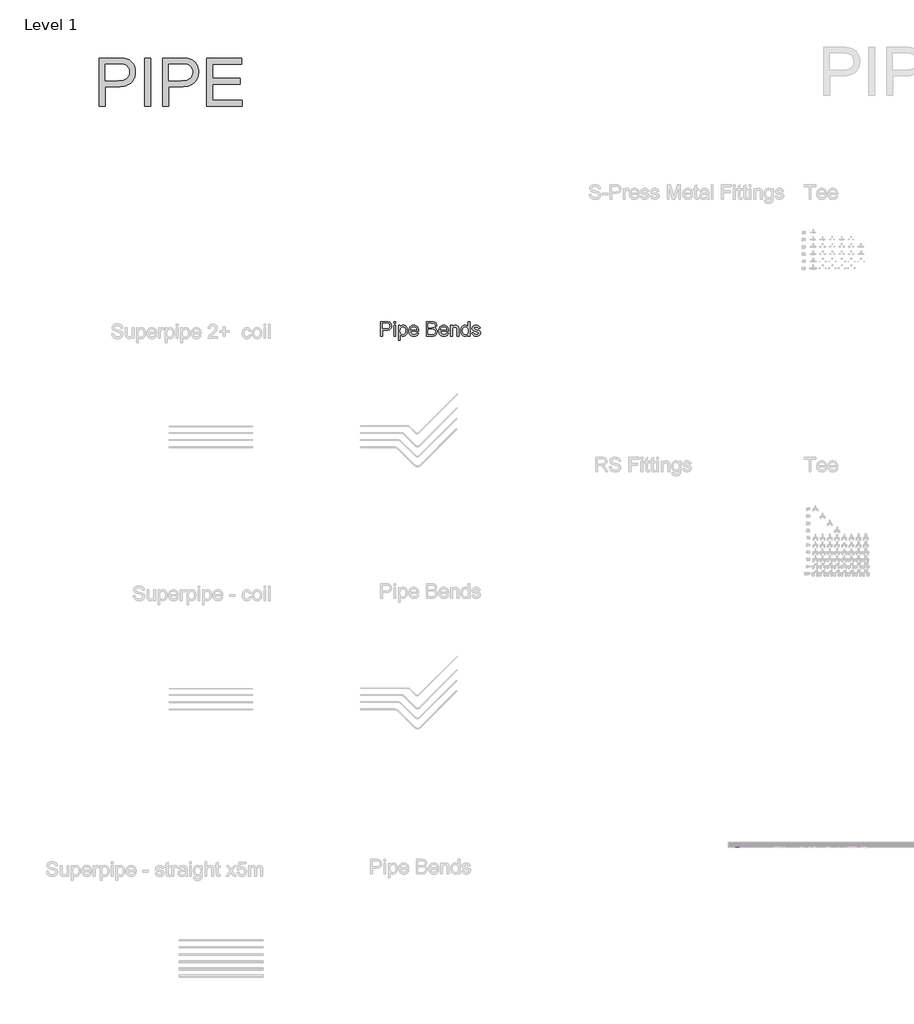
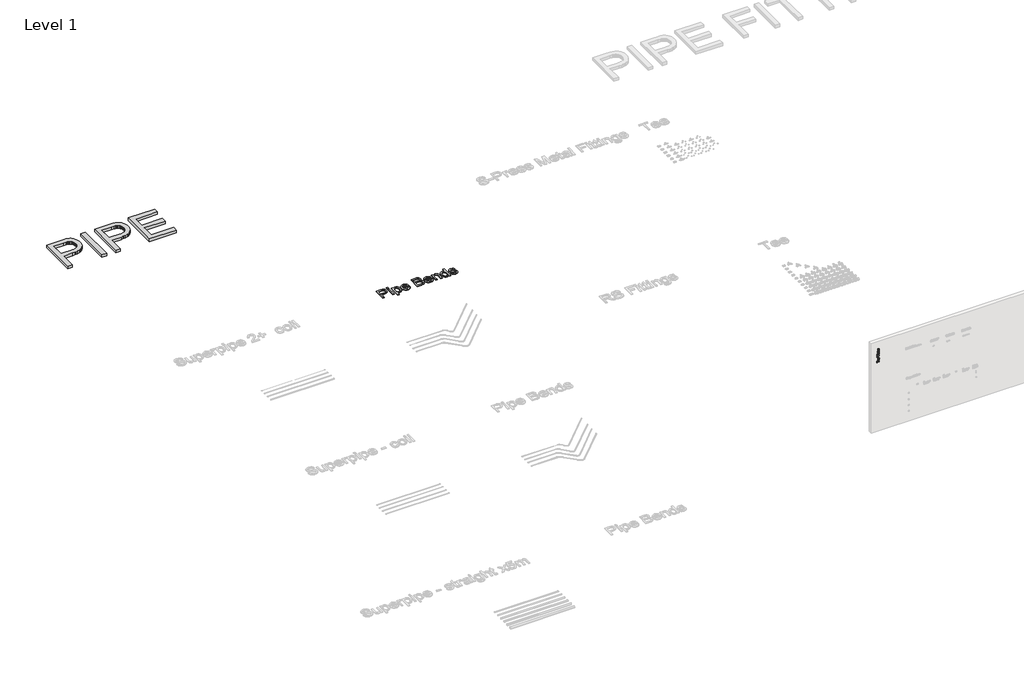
# One storey, part 11 of 57: 3 proxies.
"""IFC4 building model written with IfcOpenShell, lengths in millimetres."""

import ifcopenshell
import ifcopenshell.guid

model = None  # the IFC model being written
_history = None  # IfcOwnerHistory: only IFC2X3 demands one
_inside = {}  # id of a spatial element -> (the spatial element, [elements in it])
_under = {}  # id of a project, library or spatial element -> (it, [spatial elements below it])
_declared = {}  # id of a project -> (the project, [libraries it declares])
_typed = {}  # id of a type object -> (the type object, [elements of that type])
_made_of = {}  # id of a material, layer set ... -> (it, [elements and type objects made of it])


def new_model(schema):
    """Start an empty IFC model of exactly this schema.

    Asked for "IFC4X3", IfcOpenShell would pick the latest addendum, in which some entities
    have other attributes; the version numbers below select the first issue.
    IFC2X3 requires an IfcOwnerHistory on every rooted entity: one is made here for all.
    """
    global model, _history
    if schema == "IFC4X3":
        model = ifcopenshell.file(schema_version=(4, 3, 0, 0))
    else:
        model = ifcopenshell.file(schema=schema)
    _inside.clear()
    _under.clear()
    _declared.clear()
    _typed.clear()
    _made_of.clear()
    _history = None
    if model.schema == "IFC2X3":
        org = make("IfcOrganization", Name="unknown")
        user = make(
            "IfcPersonAndOrganization",
            ThePerson=make("IfcPerson", FamilyName="unknown"),
            TheOrganization=org,
        )
        app = make(
            "IfcApplication",
            ApplicationDeveloper=org,
            Version="unknown",
            ApplicationFullName="unknown",
            ApplicationIdentifier="unknown",
        )
        _history = make(
            "IfcOwnerHistory",
            OwningUser=user,
            OwningApplication=app,
            ChangeAction="ADDED",
            CreationDate=0,
        )
    return model


def make(cls, **values):
    """One entity of the class cls with the attributes given. An attribute that is None is left unset."""
    return model.create_entity(
        cls, **{name: value for name, value in values.items() if value is not None}
    )


def rooted(cls, **values):
    """An entity with a GlobalId (a new one), such as an element, a storey or a relation."""
    return make(cls, GlobalId=ifcopenshell.guid.new(), OwnerHistory=_history, **values)


def si_unit(unit_type, name, prefix=None):
    """IfcSIUnit, for example si_unit("LENGTHUNIT", "METRE", prefix="MILLI")."""
    return make("IfcSIUnit", UnitType=unit_type, Prefix=prefix, Name=name)


def assignment(units):
    """IfcUnitAssignment: the units of a project."""
    return None if units is None else make("IfcUnitAssignment", Units=units)


def point(xyz):
    """IfcCartesianPoint."""
    return None if xyz is None else make("IfcCartesianPoint", Coordinates=xyz)


def direction(xyz):
    """IfcDirection."""
    return None if xyz is None else make("IfcDirection", DirectionRatios=xyz)


def frame(location, z_axis=None, x_axis=None):
    """IfcAxis2Placement3D, a coordinate frame: its origin and axes. An axis left out is left unset."""
    return make(
        "IfcAxis2Placement3D",
        Location=point(location),
        Axis=direction(z_axis),
        RefDirection=direction(x_axis),
    )


def origin():
    """The frame at (0, 0, 0) with its axes left unset."""
    return frame((0.0, 0.0, 0.0))


def place(relative_to, where):
    """IfcLocalPlacement: puts the frame where relative to a parent placement (None: the world)."""
    return make(
        "IfcLocalPlacement", PlacementRelTo=relative_to, RelativePlacement=where
    )


def context(
    kind, dimensions, precision=None, world=None, true_north=None, identifier=None
):
    """IfcGeometricRepresentationContext, for example the 3D "Model" context."""
    return make(
        "IfcGeometricRepresentationContext",
        ContextIdentifier=identifier,
        ContextType=kind,
        CoordinateSpaceDimension=dimensions,
        Precision=precision,
        WorldCoordinateSystem=world,
        TrueNorth=true_north,
    )


def project(units=None, contexts=None):
    """IfcProject with its units and contexts."""
    return rooted(
        "IfcProject",
        Name="project",
        RepresentationContexts=contexts,
        UnitsInContext=assignment(units),
    )


def spatial(cls, under=None, at=None, **own):
    """A site, building, storey or space (cls), placed at a placement, below another one or the project."""
    s = rooted(cls, ObjectPlacement=at, **own)
    if under is not None:
        _under.setdefault(under.id(), (under, []))[1].append(s)
    return s


def polyline(points):
    """IfcPolyline through the points."""
    return make("IfcPolyline", Points=[point(p) for p in points])


def outline(outer, holes=None, kind="AREA"):
    """IfcArbitraryClosedProfileDef: a profile drawn as a closed curve; with holes, ...WithVoids."""
    if holes is None:
        return make("IfcArbitraryClosedProfileDef", ProfileType=kind, OuterCurve=outer)
    return make(
        "IfcArbitraryProfileDefWithVoids",
        ProfileType=kind,
        OuterCurve=outer,
        InnerCurves=holes,
    )


def extrude(swept, where, along, depth):
    """IfcExtrudedAreaSolid: the profile swept, set in the frame where, extruded along a direction by depth."""
    return make(
        "IfcExtrudedAreaSolid",
        SweptArea=swept,
        Position=where,
        ExtrudedDirection=direction(along),
        Depth=depth,
    )


def shape(context_of_items, identifier, shape_type, items):
    """IfcShapeRepresentation: the items that make up one representation, for example the "Body"."""
    return make(
        "IfcShapeRepresentation",
        ContextOfItems=context_of_items,
        RepresentationIdentifier=identifier,
        RepresentationType=shape_type,
        Items=items,
    )


def made_of(thing, what):
    """Note that an element or type object is made of a material, layer set ...; save() writes the relation."""
    if what is not None:
        _made_of.setdefault(what.id(), (what, []))[1].append(thing)
    return thing


def element(
    cls,
    number,
    at=None,
    inside=None,
    cuts=None,
    type_object=None,
    material=None,
    context=None,
    identifier="Body",
    shape_type=None,
    held_by="IfcProductDefinitionShape",
    body=None,
    shapes=None,
    **own,
):
    """One element of the class cls, such as IfcWall. Its Tag is "e" and its number.

    at: its placement. inside: the storey or other place that contains it. cuts: it is an
    opening in that element (IfcRelVoidsElement). A single representation is given by context,
    identifier, shape_type and body (its items); several are given by shapes. held_by: the class
    of the entity that holds the representations. save() writes the other relations.
    """
    e = rooted(cls, Tag="e%d" % number, ObjectPlacement=at, **own)
    if body is not None:
        shapes = [shape(context, identifier, shape_type, body)]
    if shapes is not None:
        e.Representation = make(held_by, Representations=shapes)
    if inside is not None:
        _inside.setdefault(inside.id(), (inside, []))[1].append(e)
    if cuts is not None:
        rooted(
            "IfcRelVoidsElement", RelatingBuildingElement=cuts, RelatedOpeningElement=e
        )
    if type_object is not None:
        _typed.setdefault(type_object.id(), (type_object, []))[1].append(e)
    return made_of(e, material)


def aggregate(whole, parts):
    """IfcRelAggregates: a whole, such as a stair, and the parts it consists of."""
    return rooted("IfcRelAggregates", RelatingObject=whole, RelatedObjects=parts)


def save(model, path):
    """Write the relations noted so far, then the file.

    IfcRelAggregates (storeys below a building ...), IfcRelContainedInSpatialStructure (elements
    in a storey), IfcRelDefinesByType, IfcRelAssociatesMaterial and IfcRelDeclares: one each for
    every whole, place, type object, material and project.
    """
    for whole, parts in _under.values():
        aggregate(whole, parts)
    for where, things in _inside.values():
        rooted(
            "IfcRelContainedInSpatialStructure",
            RelatedElements=things,
            RelatingStructure=where,
        )
    for kind, things in _typed.values():
        rooted("IfcRelDefinesByType", RelatedObjects=things, RelatingType=kind)
    for what, things in _made_of.values():
        rooted("IfcRelAssociatesMaterial", RelatedObjects=things, RelatingMaterial=what)
    for by, libraries in _declared.values():
        rooted("IfcRelDeclares", RelatingContext=by, RelatedDefinitions=libraries)
    model.write(path)


model = new_model("IFC4")

# Units and contexts
model_context = context("Model", 3, world=origin())
ifc_project = project(units=[si_unit("LENGTHUNIT", "METRE", prefix="MILLI")], contexts=[model_context])

# Site, building, storey
site = spatial("IfcSite", under=ifc_project)
building = spatial("IfcBuilding", under=site)
storey = spatial("IfcBuildingStorey", under=building, Name="Level 1", Elevation=27.3876384)

# Proxies
placement = place(None, origin())
element("IfcBuildingElementProxy", 1, Name="125mm Arial - color", ObjectType="125mm Arial - color", at=placement, inside=storey, context=model_context, shape_type="SweptSolid", body=[
    extrude(outline(polyline([(4047.2802199, 10050.1646823), (4062.9765184, 10050.1646823), (4062.9765184, 9940.290593), (4104.1793018, 9940.290593), (4104.1793018, 9924.5942946), (4006.0774365, 9924.5942946), (4006.0774365, 9940.290593), (4047.2802199, 9940.290593), (4047.2802199, 10050.1646823)])), frame((0.0, 4542.8703674, 0.0), z_axis=(0.0, 1.0, 0.0), x_axis=(0.0, 0.0, 1.0)), (0.0, 0.0, 1.0), 2.0),
    extrude(outline(polyline([(4178.7367195, 10038.3924584), (4182.6607941, 10050.1646823), (4198.3570926, 10050.1646823), (4195.2300956, 10036.9669157), (4194.433018, 10009.6976628), (4194.433018, 9990.1692602), (4193.6665972, 9976.4349991), (4188.8534744, 9965.7817496), (4178.1082544, 9958.7766633), (4159.0856896, 9955.9868915), (4138.376999, 9959.1445453), (4124.7040515, 9968.1269973), (4117.913563, 9983.4554138), (4133.6098614, 9985.4174511), (4141.1820992, 9974.702888), (4157.0623386, 9971.6831899), (4174.4141061, 9976.2204012), (4178.7367195, 9987.8086841), (4178.644749, 9991.303563), (4151.4214814, 9996.6991656), (4137.8405044, 9999.0597418), (4126.8500298, 10004.2100897), (4118.9558953, 10013.2231986), (4115.9515257, 10025.6392159), (4117.9403877, 10036.1928306), (4123.9069738, 10044.6771092), (4133.5830367, 10050.264317), (4146.7003291, 10052.1267196), (4163.515602, 10049.0303794), (4178.7367195, 10038.3924584)]), holes=[polyline([(4178.7367195, 10006.9998615), (4178.644749, 10011.4451023), (4176.1615456, 10023.5852081), (4165.9221634, 10032.6749591), (4150.0419239, 10036.4304211), (4136.3229912, 10033.0275126), (4131.6478241, 10024.5355699), (4133.7938024, 10018.4961738), (4139.9098406, 10014.3575014), (4153.4141755, 10011.8129843), (4178.7367195, 10006.9998615)])]), frame((0.0, 4542.8703674, 0.0), z_axis=(0.0, 1.0, 0.0), x_axis=(0.0, 0.0, 1.0)), (0.0, 0.0, 1.0), 2.0),
    extrude(outline(polyline([(4216.0154284, 10085.4813538), (4231.7117268, 10085.4813538), (4231.7117268, 10037.9019491), (4241.6598691, 10048.095346), (4255.3174882, 10052.1267196), (4275.1677875, 10046.1026519), (4283.4757892, 10038.7603404), (4289.5458422, 10028.7815413), (4294.4969207, 10003.3516984), (4290.1129936, 9979.1634572), (4284.6714057, 9969.3685991), (4277.1144964, 9962.0569444), (4267.8331402, 9957.5044047), (4257.2182118, 9955.9868915), (4242.5642457, 9960.3248333), (4231.7117268, 9973.3386589), (4231.7117268, 9957.9489288), (4216.0154284, 9957.9489288), (4216.0154284, 10085.4813538)]), holes=[polyline([(4231.7117268, 10004.7925695), (4233.5243121, 9990.5563027), (4238.9620678, 9980.1598043), (4246.7527355, 9973.8023435), (4255.6240565, 9971.6831899), (4264.4608886, 9973.6758841), (4271.9641485, 9979.6539665), (4277.0915038, 9989.6327656), (4278.8006222, 10003.6276099), (4277.0493506, 10018.2279265), (4271.7955359, 10028.4289877), (4264.0891745, 10034.4300627), (4254.980263, 10036.4304211), (4246.0169715, 10034.4990406), (4238.5022153, 10028.7048992), (4233.4093489, 10018.8640558), (4231.7117268, 10004.7925695)])]), frame((0.0, 4542.8703674, 0.0), z_axis=(0.0, 1.0, 0.0), x_axis=(0.0, 0.0, 1.0)), (0.0, 0.0, 1.0), 2.0),
    extrude(outline(polyline([(4385.639685, 10050.1646823), (4404.5856077, 10050.1646823), (4432.0234732, 9956.0482052), (4436.7446255, 9939.7694269), (4440.9446116, 9953.2890902), (4471.0496215, 10050.1646823), (4487.8189091, 10050.1646823), (4522.0932484, 9924.5942946), (4505.9064406, 9924.5942946), (4485.8568718, 10007.8582528), (4479.9094462, 10032.598317), (4466.4510966, 9986.5517539), (4448.3635652, 9924.5942946), (4425.0337153, 9924.5942946), (4400.140367, 10010.0655448), (4393.5798047, 10032.598317), (4387.4484381, 10007.1224888), (4367.5828104, 9924.5942946), (4351.3960026, 9924.5942946), (4385.639685, 10050.1646823)])), frame((0.0, 4542.8703674, 0.0), z_axis=(0.0, 1.0, 0.0), x_axis=(0.0, 0.0, 1.0)), (0.0, 0.0, 1.0), 2.0),
    extrude(outline(polyline([(4594.6886287, 10038.3924584), (4598.6127033, 10050.1646823), (4614.3090018, 10050.1646823), (4611.1820049, 10036.9669157), (4610.3849272, 10009.6976628), (4610.3849272, 9990.1692602), (4609.6185064, 9976.4349991), (4604.8053836, 9965.7817496), (4594.0601637, 9958.7766633), (4575.0375988, 9955.9868915), (4554.3289082, 9959.1445453), (4540.6559607, 9968.1269973), (4533.8654722, 9983.4554138), (4549.5617707, 9985.4174511), (4557.1340084, 9974.702888), (4573.0142479, 9971.6831899), (4590.3660153, 9976.2204012), (4594.6886287, 9987.8086841), (4594.5966582, 9991.303563), (4567.3733906, 9996.6991656), (4553.7924136, 9999.0597418), (4542.801939, 10004.2100897), (4534.9078045, 10013.2231986), (4531.9034349, 10025.6392159), (4533.8922969, 10036.1928306), (4539.858883, 10044.6771092), (4549.5349459, 10050.264317), (4562.6522383, 10052.1267196), (4579.4675112, 10049.0303794), (4594.6886287, 10038.3924584)]), holes=[polyline([(4594.6886287, 10006.9998615), (4594.5966582, 10011.4451023), (4592.1134548, 10023.5852081), (4581.8740726, 10032.6749591), (4565.9938331, 10036.4304211), (4552.2749004, 10033.0275126), (4547.5997334, 10024.5355699), (4549.7457117, 10018.4961738), (4555.8617498, 10014.3575014), (4569.3660847, 10011.8129843), (4594.6886287, 10006.9998615)])]), frame((0.0, 4542.8703674, 0.0), z_axis=(0.0, 1.0, 0.0), x_axis=(0.0, 0.0, 1.0)), (0.0, 0.0, 1.0), 2.0),
    extrude(outline(polyline([(4665.3219718, 10037.0742146), (4658.4854981, 10036.4304211), (4653.1358807, 10035.3727604), (4650.4534078, 10032.5063465), (4649.6256733, 10024.4129426), (4649.6256733, 9973.6452273), (4665.3219718, 9973.6452273), (4665.3219718, 9957.9489288), (4649.6256733, 9957.9489288), (4649.6256733, 9926.3110772), (4633.9293749, 9935.5387839), (4633.9293749, 9957.9489288), (4622.157151, 9957.9489288), (4622.157151, 9973.6452273), (4633.9293749, 9973.6452273), (4633.9293749, 10024.8727951), (4635.8300985, 10042.684415), (4642.3906608, 10049.5208888), (4655.5424421, 10052.1267196), (4667.2840091, 10050.6245347), (4665.3219718, 10037.0742146)])), frame((0.0, 4542.8703674, 0.0), z_axis=(0.0, 1.0, 0.0), x_axis=(0.0, 0.0, 1.0)), (0.0, 0.0, 1.0), 2.0),
    extrude(outline(polyline([(4745.5815604, 10022.6961599), (4735.4648056, 10033.15014), (4720.0750754, 10036.4304211), (4708.9658056, 10034.659989), (4699.8568941, 10029.3486927), (4693.5454186, 10020.71113), (4690.8284568, 10008.9618988), (4761.3698294, 10008.9618988), (4761.4617999, 10004.7312558), (4758.484255, 9984.1528567), (4749.5516203, 9968.7707908), (4735.9284902, 9959.1828663), (4718.8794589, 9955.9868915), (4701.2824368, 9959.1905305), (4687.302921, 9968.8014477), (4678.174849, 9984.2141704), (4675.1321583, 10004.8232263), (4678.1441922, 10024.7616641), (4687.1802937, 10039.6953738), (4701.3514147, 10049.0188831), (4719.7685071, 10052.1267196), (4734.6255748, 10050.3256306), (4746.5779075, 10044.9223638), (4755.4262359, 10036.2541443), (4760.9712906, 10024.6581973), (4745.5815604, 10022.6961599)]), holes=[polyline([(4690.8284568, 9993.2656003), (4693.4074629, 9984.4172719), (4699.4890121, 9977.5539735), (4708.2377058, 9973.1508858), (4718.8181453, 9971.6831899), (4730.329786, 9973.5225999), (4739.4808507, 9979.0408299), (4745.7655014, 9993.2656003), (4690.8284568, 9993.2656003)])]), frame((0.0, 4542.8703674, 0.0), z_axis=(0.0, 1.0, 0.0), x_axis=(0.0, 0.0, 1.0)), (0.0, 0.0, 1.0), 2.0),
    extrude(outline(polyline([(4777.1580983, 10050.1646823), (4792.8543968, 10050.1646823), (4792.8543968, 10001.6962294), (4795.3989139, 9983.3634433), (4801.0550996, 9974.7795301), (4809.9302527, 9971.6831899), (4820.9667126, 9974.9021574), (4826.209031, 9960.8306711), (4810.4514189, 9955.9868915), (4800.6412324, 9959.0219179), (4790.8923595, 9971.5912194), (4790.8923595, 9957.9489288), (4777.1580983, 9957.9489288), (4777.1580983, 10050.1646823)])), frame((0.0, 4542.8703674, 0.0), z_axis=(0.0, 1.0, 0.0), x_axis=(0.0, 0.0, 1.0)), (0.0, 0.0, 1.0), 2.0),
])
element("IfcBuildingElementProxy", 2, Name="2000mm Arial", ObjectType="2000mm Arial", at=placement, inside=storey, context=model_context, shape_type="SweptSolid", body=[
    extrude(outline(polyline([(-16641.0429592, 35469.9645054), (-16641.0429592, 37479.0907084), (-15896.449801, 37479.0907084), (-15723.0547539, 37474.3082425), (-15653.8316252, 37468.3301601), (-15596.2580929, 37459.9608447), (-15526.3758423, 37444.8930113), (-15462.4103604, 37424.2149775), (-15404.3616472, 37397.9267433), (-15352.2297028, 37366.0283086), (-15305.4627042, 37327.8605516), (-15263.5088283, 37282.7643503), (-15226.3680752, 37230.7397049), (-15194.0404449, 37171.7866151), (-15167.8595096, 37107.8517901), (-15149.1588415, 37040.8819385), (-15137.9384406, 36970.8770605), (-15134.198307, 36897.8371561), (-15136.7236636, 36834.9369991), (-15144.2997334, 36774.5047172), (-15156.9265165, 36716.5403103), (-15174.6040128, 36661.0437785), (-15197.3322223, 36608.0151217), (-15225.1111451, 36557.45434), (-15257.940781, 36509.3614334), (-15295.8211302, 36463.7364017), (-15340.2926985, 36422.119751), (-15392.8959917, 36386.0519871), (-15453.6310098, 36355.5331099), (-15522.4977529, 36330.5631195), (-15599.4962209, 36311.1420158), (-15684.6264139, 36297.2697989), (-15777.8883317, 36288.9464688), (-15879.2819746, 36286.1720254), (-16389.9021839, 36286.1720254), (-16389.9021839, 35469.9645054), (-16641.0429592, 35469.9645054)]), holes=[polyline([(-16389.9021839, 36537.3128008), (-15864.5666948, 36537.3128008), (-15743.778773, 36543.0762854), (-15690.4665405, 36550.2806411), (-15641.8754603, 36560.3667391), (-15598.0055324, 36573.3345795), (-15558.8567568, 36589.1841621), (-15524.4291334, 36607.915487), (-15494.7226623, 36629.5285542), (-15469.0858857, 36653.7551165), (-15446.8673461, 36680.3269264), (-15428.0670433, 36709.2439841), (-15412.6849773, 36740.5062895), (-15400.7211483, 36774.1138426), (-15392.1755561, 36810.0666434), (-15387.0482008, 36848.3646919), (-15385.3390824, 36889.0079882), (-15389.3704559, 36947.6238527), (-15401.4645765, 37001.8251334), (-15421.6214441, 37051.61183), (-15449.8410589, 37096.9839428), (-15484.6212358, 37136.4699436), (-15524.4597902, 37168.5983045), (-15569.356722, 37193.3690255), (-15619.3120313, 37210.7821066), (-15660.5761284, 37218.2930307), (-15716.1876234, 37223.6579765), (-15870.4528067, 37227.9499331), (-16389.9021839, 37227.9499331), (-16389.9021839, 36537.3128008)])]), frame((0.0, 0.0, 27.3876384), z_axis=(0.0, 0.0, 1.0), x_axis=(1.0, 0.0, 0.0)), (0.0, 0.0, 1.0), 150.0),
    extrude(outline(polyline([(-14757.4871439, 35469.9645054), (-14757.4871439, 37479.0907084), (-14506.3463686, 37479.0907084), (-14506.3463686, 35469.9645054), (-14757.4871439, 35469.9645054)])), frame((0.0, 0.0, 27.3876384), z_axis=(0.0, 0.0, 1.0), x_axis=(1.0, 0.0, 0.0)), (0.0, 0.0, 1.0), 150.0),
    extrude(outline(polyline([(-14004.0648178, 35469.9645054), (-14004.0648178, 37479.0907084), (-13259.4716596, 37479.0907084), (-13086.0766125, 37474.3082425), (-13016.8534838, 37468.3301601), (-12959.2799515, 37459.9608447), (-12889.3977008, 37444.8930113), (-12825.4322189, 37424.2149775), (-12767.3835058, 37397.9267433), (-12715.2515614, 37366.0283086), (-12668.4845627, 37327.8605516), (-12626.5306869, 37282.7643503), (-12589.3899338, 37230.7397049), (-12557.0623034, 37171.7866151), (-12530.8813681, 37107.8517901), (-12512.1807, 37040.8819385), (-12500.9602992, 36970.8770605), (-12497.2201656, 36897.8371561), (-12499.7455222, 36834.9369991), (-12507.321592, 36774.5047172), (-12519.9483751, 36716.5403103), (-12537.6258714, 36661.0437785), (-12560.3540809, 36608.0151217), (-12588.1330036, 36557.45434), (-12620.9626396, 36509.3614334), (-12658.8429888, 36463.7364017), (-12703.3145571, 36422.119751), (-12755.9178503, 36386.0519871), (-12816.6528684, 36355.5331099), (-12885.5196115, 36330.5631195), (-12962.5180795, 36311.1420158), (-13047.6482724, 36297.2697989), (-13140.9101903, 36288.9464688), (-13242.3038331, 36286.1720254), (-13752.9240424, 36286.1720254), (-13752.9240424, 35469.9645054), (-14004.0648178, 35469.9645054)]), holes=[polyline([(-13752.9240424, 36537.3128008), (-13227.5885533, 36537.3128008), (-13106.8006316, 36543.0762854), (-13053.4883991, 36550.2806411), (-13004.8973189, 36560.3667391), (-12961.027391, 36573.3345795), (-12921.8786153, 36589.1841621), (-12887.4509919, 36607.915487), (-12857.7445208, 36629.5285542), (-12832.1077443, 36653.7551165), (-12809.8892046, 36680.3269264), (-12791.0889018, 36709.2439841), (-12775.7068359, 36740.5062895), (-12763.7430069, 36774.1138426), (-12755.1974147, 36810.0666434), (-12750.0700594, 36848.3646919), (-12748.3609409, 36889.0079882), (-12752.3923145, 36947.6238527), (-12764.4864351, 37001.8251334), (-12784.6433027, 37051.61183), (-12812.8629174, 37096.9839428), (-12847.6430944, 37136.4699436), (-12887.4816488, 37168.5983045), (-12932.3785806, 37193.3690255), (-12982.3338899, 37210.7821066), (-13023.597987, 37218.2930307), (-13079.2094819, 37223.6579765), (-13233.4746652, 37227.9499331), (-13752.9240424, 37227.9499331), (-13752.9240424, 36537.3128008)])]), frame((0.0, 0.0, 27.3876384), z_axis=(0.0, 0.0, 1.0), x_axis=(1.0, 0.0, 0.0)), (0.0, 0.0, 1.0), 150.0),
    extrude(outline(polyline([(-12151.9015994, 35469.9645054), (-12151.9015994, 37479.0907084), (-10707.842141, 37479.0907084), (-10707.842141, 37227.9499331), (-11900.7608241, 37227.9499331), (-11900.7608241, 36631.4905915), (-10770.6273349, 36631.4905915), (-10770.6273349, 36380.3498162), (-11900.7608241, 36380.3498162), (-11900.7608241, 35721.1052808), (-10676.4495441, 35721.1052808), (-10676.4495441, 35469.9645054), (-12151.9015994, 35469.9645054)])), frame((0.0, 0.0, 27.3876384), z_axis=(0.0, 0.0, 1.0), x_axis=(1.0, 0.0, 0.0)), (0.0, 0.0, 1.0), 150.0),
])
element("IfcBuildingElementProxy", 3, Name="600mm Arial", ObjectType="600mm Arial", at=placement, inside=storey, context=model_context, shape_type="SweptSolid", body=[
    extrude(outline(polyline([(-4888.7384012, 25873.588582), (-4888.7384012, 26476.3264429), (-4665.3604538, 26476.3264429), (-4613.3419397, 26474.8917032), (-4575.3029414, 26470.5874838), (-4535.1486216, 26459.8637237), (-4502.0944243, 26442.407723), (-4475.478162, 26417.4285355), (-4454.6376469, 26384.135215), (-4441.1731659, 26344.863812), (-4436.6850056, 26301.9503772), (-4439.7154335, 26264.9506456), (-4448.8067173, 26230.912364), (-4463.958857, 26199.8355324), (-4485.1718525, 26171.7201509), (-4514.294311, 26148.4148265), (-4553.1748393, 26131.7681663), (-4601.8134376, 26121.7801701), (-4660.2101058, 26118.450838), (-4813.3961686, 26118.450838), (-4813.3961686, 25873.588582), (-4888.7384012, 25873.588582)]), holes=[polyline([(-4813.3961686, 26193.7930706), (-4655.7955219, 26193.7930706), (-4619.5591454, 26195.522116), (-4588.9881516, 26200.7092522), (-4564.0825405, 26209.354479), (-4544.8423122, 26221.4577967), (-4530.4857173, 26236.6973083), (-4520.2310067, 26254.7511172), (-4514.0781803, 26275.6192234), (-4512.0272382, 26299.3016269), (-4516.8648864, 26333.1467704), (-4531.3778311, 26361.6944132), (-4553.7634505, 26383.1787218), (-4582.2191229, 26395.8338624), (-4611.2818005, 26399.6966233), (-4657.5613555, 26400.9842103), (-4813.3961686, 26400.9842103), (-4813.3961686, 26193.7930706)])]), frame((0.0, 0.0, 27.3876384), z_axis=(0.0, 0.0, 1.0), x_axis=(1.0, 0.0, 0.0)), (0.0, 0.0, 1.0), 30.0),
    extrude(outline(polyline([(-4342.5072148, 25873.588582), (-4342.5072148, 26316.2241986), (-4267.1649822, 26316.2241986), (-4267.1649822, 25873.588582), (-4342.5072148, 25873.588582)])), frame((0.0, 0.0, 27.3876384), z_axis=(0.0, 0.0, 1.0), x_axis=(1.0, 0.0, 0.0)), (0.0, 0.0, 1.0), 30.0),
    extrude(outline(polyline([(-4342.5072148, 26400.9842103), (-4342.5072148, 26476.3264429), (-4267.1649822, 26476.3264429), (-4267.1649822, 26400.9842103), (-4342.5072148, 26400.9842103)])), frame((0.0, 0.0, 27.3876384), z_axis=(0.0, 0.0, 1.0), x_axis=(1.0, 0.0, 0.0)), (0.0, 0.0, 1.0), 30.0),
    extrude(outline(polyline([(-4154.1516333, 25704.0685587), (-4154.1516333, 26316.2241986), (-4078.8094007, 26316.2241986), (-4078.8094007, 26242.353494), (-4054.2348834, 26278.7922056), (-4026.7173101, 26304.8198568), (-3994.6380002, 26320.4364475), (-3956.3782727, 26325.6419777), (-3930.1023012, 26323.8209618), (-3905.4266163, 26318.3579142), (-3882.3512182, 26309.2528348), (-3860.8761067, 26296.5057237), (-3841.4703315, 26280.4476746), (-3824.602942, 26261.4097814), (-3810.2739383, 26239.3920439), (-3798.4833203, 26214.3944624), (-3782.7011827, 26158.8810693), (-3777.4404702, 26098.2909047), (-3783.3817644, 26033.8563732), (-3790.8083822, 26004.1912889), (-3801.2056471, 25976.2276587), (-3814.4310048, 25950.6966482), (-3830.3419011, 25928.3294229), (-3848.938336, 25909.1259828), (-3870.2203094, 25893.0863278), (-3893.1439562, 25880.4357857), (-3916.6654113, 25871.3996842), (-3940.7846746, 25865.9780233), (-3965.5017461, 25864.170803), (-4000.137836, 25869.0084512), (-4031.0583177, 25883.5213959), (-4057.5274272, 25905.4287687), (-4078.8094007, 25932.4497013), (-4078.8094007, 25704.0685587), (-4154.1516333, 25704.0685587)]), holes=[polyline([(-4078.8094007, 26091.3747232), (-4076.7722541, 26055.0647703), (-4070.6608145, 26023.8315889), (-4060.4750817, 25997.675179), (-4046.2150559, 25976.5955407), (-4029.0487623, 25960.3719447), (-4010.1442263, 25948.7836619), (-3989.5014478, 25941.8306922), (-3967.1204269, 25939.5130356), (-3944.4175093, 25941.9134656), (-3923.3976518, 25949.1147557), (-3904.0608544, 25961.1169057), (-3886.4071172, 25977.9199159), (-3871.6964359, 25999.7629093), (-3861.1888064, 26026.8850094), (-3854.8842287, 26059.2862162), (-3852.7827028, 26096.9665295), (-3854.8336449, 26132.9637827), (-3860.9864713, 26164.1417818), (-3871.2411819, 26190.5005268), (-3885.5977768, 26212.0400176), (-3902.8054571, 26228.7786484), (-3921.6134241, 26240.7348132), (-3942.0216778, 26247.9085121), (-3964.0302182, 26250.2997451), (-3985.9697807, 26247.7567608), (-4006.6125591, 26240.1278079), (-4025.9585535, 26227.4128865), (-4044.0077639, 26209.6119964), (-4059.23348, 26186.9642611), (-4070.1089915, 26159.7088038), (-4076.6342984, 26127.8456245), (-4078.8094007, 26091.3747232)])]), frame((0.0, 0.0, 27.3876384), z_axis=(0.0, 0.0, 1.0), x_axis=(1.0, 0.0, 0.0)), (0.0, 0.0, 1.0), 30.0),
    extrude(outline(polyline([(-3382.7766658, 26005.4374891), (-3308.9059612, 25996.01971), (-3320.2321281, 25966.4328006), (-3335.5222235, 25940.3591642), (-3354.7762474, 25917.7988008), (-3377.9941999, 25898.7517105), (-3404.9369575, 25883.6225635), (-3435.365397, 25872.8160299), (-3469.2795184, 25866.3321097), (-3506.6793218, 25864.170803), (-3553.4279263, 25867.9002067), (-3595.0813652, 25879.0884179), (-3631.6396385, 25897.7354365), (-3663.1027461, 25923.8412626), (-3688.4038303, 25956.6793292), (-3706.4760333, 25995.5230693), (-3717.3193552, 26040.3724831), (-3720.9337958, 26091.2275704), (-3717.282567, 26143.8071046), (-3706.3288805, 26190.1510389), (-3688.0727365, 26230.2593734), (-3662.5141349, 26264.1321081), (-3631.1338007, 26291.0426761), (-3595.412459, 26310.2645103), (-3555.3501097, 26321.7976109), (-3510.9467529, 26325.6419777), (-3467.9735373, 26321.8068079), (-3429.1114031, 26310.3012985), (-3394.3603501, 26291.1254495), (-3363.7203784, 26264.2792609), (-3338.7090013, 26230.4801026), (-3320.8437319, 26190.4453445), (-3310.1245703, 26144.1749865), (-3306.5515164, 26091.6690288), (-3306.9929748, 26071.3619427), (-3645.5915631, 26071.3619427), (-3641.227563, 26041.2967866), (-3632.5501464, 26014.9656328), (-3619.5593135, 25992.3684812), (-3602.2550641, 25973.5053319), (-3581.5938916, 25958.6337023), (-3558.532289, 25948.0111097), (-3533.0702564, 25941.6375541), (-3505.2077938, 25939.5130356), (-3465.1086563, 25943.4493729), (-3431.3370892, 25955.258385), (-3403.8930923, 25975.6758357), (-3382.7766658, 26005.4374891)]), holes=[polyline([(-3645.5915631, 26146.7041753), (-3381.893749, 26146.7041753), (-3392.0840803, 26186.5090071), (-3400.8488688, 26202.162386), (-3412.0600726, 26214.9830736), (-3432.606282, 26230.4341174), (-3455.9851828, 26241.4705772), (-3482.196775, 26248.0924531), (-3511.2410585, 26250.2997451), (-3537.7331607, 26248.5385101), (-3562.0271679, 26243.2548049), (-3584.1230803, 26234.4486296), (-3604.0208977, 26222.1199843), (-3620.7181417, 26206.8390859), (-3633.212334, 26189.1761516), (-3641.5034745, 26169.1311814), (-3645.5915631, 26146.7041753)])]), frame((0.0, 0.0, 27.3876384), z_axis=(0.0, 0.0, 1.0), x_axis=(1.0, 0.0, 0.0)), (0.0, 0.0, 1.0), 30.0),
    extrude(outline(polyline([(-2986.3470278, 25873.588582), (-2986.3470278, 26476.3264429), (-2756.3472044, 26476.3264429), (-2693.0898953, 26471.8934649), (-2643.7017375, 26458.5945308), (-2623.6245776, 26448.5375567), (-2605.8466802, 26436.0985468), (-2590.3680452, 26421.2775009), (-2577.1886728, 26404.0744191), (-2559.1440609, 26366.4033028), (-2553.1291903, 26326.9663529), (-2558.1875677, 26290.6747941), (-2573.3627, 26256.553739), (-2598.7649518, 26226.7001151), (-2634.5046876, 26203.2108497), (-2611.7649818, 26193.5171592), (-2591.8119821, 26180.9172008), (-2574.6456885, 26165.4109747), (-2560.266101, 26146.9984809), (-2548.9031458, 26126.2407393), (-2540.7867493, 26103.69877), (-2535.9169114, 26079.3725731), (-2534.2936321, 26053.2621485), (-2538.7266102, 26011.2316305), (-2552.0255443, 25972.2545332), (-2571.8727779, 25939.1083654), (-2595.9506545, 25914.5706363), (-2625.4363964, 25896.8019359), (-2661.507226, 25883.9628543), (-2705.3403658, 25876.1821501), (-2758.113038, 25873.588582), (-2986.3470278, 25873.588582)]), holes=[polyline([(-2911.0047952, 25948.9308147), (-2756.4943572, 25948.9308147), (-2700.5762939, 25951.8738706), (-2674.6222192, 25958.403776), (-2653.2666694, 25968.2814076), (-2635.9026392, 25982.4264703), (-2621.9231234, 26001.7586692), (-2612.7076794, 26025.4134815), (-2609.6358647, 26052.5263845), (-2613.2411083, 26084.0170833), (-2624.0568389, 26111.0931981), (-2642.9475794, 26132.264807), (-2670.7778523, 26146.0419877), (-2710.1964081, 26153.6019627), (-2763.8519971, 26156.1219543), (-2911.0047952, 26156.1219543), (-2911.0047952, 25948.9308147)]), polyline([(-2911.0047952, 26231.464187), (-2773.416929, 26231.464187), (-2725.297964, 26233.0828677), (-2693.0715012, 26237.9389101), (-2664.9469227, 26249.1041286), (-2644.7318071, 26265.8243653), (-2632.5365189, 26287.8421027), (-2628.4714229, 26314.8998235), (-2632.2606074, 26341.1665979), (-2643.6281611, 26364.048858), (-2662.059049, 26381.9095289), (-2687.0382365, 26393.1115356), (-2725.3715404, 26399.0160417), (-2783.8647776, 26400.9842103), (-2911.0047952, 26400.9842103), (-2911.0047952, 26231.464187)])]), frame((0.0, 0.0, 27.3876384), z_axis=(0.0, 0.0, 1.0), x_axis=(1.0, 0.0, 0.0)), (0.0, 0.0, 1.0), 30.0),
    extrude(outline(polyline([(-2130.2120486, 26005.4374891), (-2056.341344, 25996.01971), (-2067.6675109, 25966.4328006), (-2082.9576063, 25940.3591642), (-2102.2116303, 25917.7988008), (-2125.4295827, 25898.7517105), (-2152.3723403, 25883.6225635), (-2182.8007798, 25872.8160299), (-2216.7149013, 25866.3321097), (-2254.1147046, 25864.170803), (-2300.8633091, 25867.9002067), (-2342.516748, 25879.0884179), (-2379.0750213, 25897.7354365), (-2410.5381289, 25923.8412626), (-2435.8392132, 25956.6793292), (-2453.9114162, 25995.5230693), (-2464.754738, 26040.3724831), (-2468.3691786, 26091.2275704), (-2464.7179498, 26143.8071046), (-2453.7642634, 26190.1510389), (-2435.5081194, 26230.2593734), (-2409.9495177, 26264.1321081), (-2378.5691836, 26291.0426761), (-2342.8478418, 26310.2645103), (-2302.7854925, 26321.7976109), (-2258.3821357, 26325.6419777), (-2215.4089202, 26321.8068079), (-2176.5467859, 26310.3012985), (-2141.7957329, 26291.1254495), (-2111.1557613, 26264.2792609), (-2086.1443841, 26230.4801026), (-2068.2791147, 26190.4453445), (-2057.5599531, 26144.1749865), (-2053.9868992, 26091.6690288), (-2054.4283576, 26071.3619427), (-2393.026946, 26071.3619427), (-2388.6629458, 26041.2967866), (-2379.9855292, 26014.9656328), (-2366.9946963, 25992.3684812), (-2349.6904469, 25973.5053319), (-2329.0292744, 25958.6337023), (-2305.9676718, 25948.0111097), (-2280.5056392, 25941.6375541), (-2252.6431766, 25939.5130356), (-2212.5440391, 25943.4493729), (-2178.772472, 25955.258385), (-2151.3284751, 25975.6758357), (-2130.2120486, 26005.4374891)]), holes=[polyline([(-2393.026946, 26146.7041753), (-2129.3291318, 26146.7041753), (-2139.5194631, 26186.5090071), (-2148.2842516, 26202.162386), (-2159.4954554, 26214.9830736), (-2180.0416649, 26230.4341174), (-2203.4205657, 26241.4705772), (-2229.6321578, 26248.0924531), (-2258.6764413, 26250.2997451), (-2285.1685435, 26248.5385101), (-2309.4625508, 26243.2548049), (-2331.5584631, 26234.4486296), (-2351.4562805, 26222.1199843), (-2368.1535246, 26206.8390859), (-2380.6477168, 26189.1761516), (-2388.9388573, 26169.1311814), (-2393.026946, 26146.7041753)])]), frame((0.0, 0.0, 27.3876384), z_axis=(0.0, 0.0, 1.0), x_axis=(1.0, 0.0, 0.0)), (0.0, 0.0, 1.0), 30.0),
    extrude(outline(polyline([(-1978.6446666, 25873.588582), (-1978.6446666, 26316.2241986), (-1903.302434, 26316.2241986), (-1903.302434, 26254.4200235), (-1877.12763, 26285.5796284), (-1845.6921135, 26307.8364892), (-1808.9958845, 26321.1906056), (-1767.038943, 26325.6419777), (-1729.9012556, 26322.0551283), (-1695.8905651, 26311.2945799), (-1667.5268633, 26294.7031019), (-1647.3301417, 26273.6234636), (-1633.6265374, 26248.1108472), (-1624.7421872, 26218.2204351), (-1620.7690617, 26145.3798001), (-1620.7690617, 25873.588582), (-1696.1112943, 25873.588582), (-1696.1112943, 26135.226257), (-1698.2817981, 26174.1849603), (-1704.7933094, 26201.8864745), (-1716.8046565, 26221.7337082), (-1735.4746678, 26237.1295697), (-1759.4053916, 26247.0072012), (-1787.1988763, 26250.2997451), (-1810.0765379, 26248.4511381), (-1831.3263216, 26242.905317), (-1850.9482275, 26233.6622819), (-1868.9422556, 26220.7220327), (-1883.9748337, 26202.6130415), (-1894.7123894, 26177.8637803), (-1901.1549228, 26146.474249), (-1903.302434, 26108.4444478), (-1903.302434, 25873.588582), (-1978.6446666, 25873.588582)])), frame((0.0, 0.0, 27.3876384), z_axis=(0.0, 0.0, 1.0), x_axis=(1.0, 0.0, 0.0)), (0.0, 0.0, 1.0), 30.0),
    extrude(outline(polyline([(-1244.0578986, 25873.588582), (-1244.0578986, 25944.6633835), (-1266.5998679, 25909.4478795), (-1293.905909, 25884.2939481), (-1325.9760219, 25869.2015893), (-1362.8102067, 25864.170803), (-1387.6790295, 25865.9918188), (-1411.5177828, 25871.4548665), (-1434.3264665, 25880.5599459), (-1456.1050806, 25893.307057), (-1476.1730435, 25909.3145223), (-1493.8497734, 25928.2006642), (-1509.1352703, 25949.9654828), (-1522.0295342, 25974.6089779), (-1532.2658507, 26001.6621001), (-1539.5775054, 26030.6557999), (-1545.4268291, 26094.4649319), (-1540.0373578, 26157.4831177), (-1523.8689442, 26214.3944624), (-1511.7472324, 26239.7507289), (-1496.9399821, 26261.9616044), (-1479.4471932, 26281.0270888), (-1459.2688658, 26296.9471821), (-1437.1177712, 26309.5011552), (-1413.7066807, 26318.4682788), (-1389.0355944, 26323.848553), (-1363.1045123, 26325.6419777), (-1326.2427364, 26320.5100239), (-1293.6483916, 26305.1141624), (-1266.0204537, 26281.5145324), (-1244.0578986, 26251.7712731), (-1244.0578986, 26476.3264429), (-1168.715666, 26476.3264429), (-1168.715666, 25873.588582), (-1244.0578986, 25873.588582)]), holes=[polyline([(-1470.0845965, 26094.7592375), (-1467.9600779, 26058.2239569), (-1461.5865224, 26026.6090979), (-1450.9639298, 25999.9146607), (-1436.0923001, 25978.1406451), (-1418.3327968, 25961.2410659), (-1399.0465832, 25949.169938), (-1378.2336593, 25941.9272612), (-1355.8940252, 25939.5130356), (-1333.4486249, 25941.8168966), (-1312.7598612, 25948.7284796), (-1293.8277341, 25960.2477845), (-1276.6522434, 25976.3748115), (-1262.3922176, 25997.2383191), (-1252.2064848, 26022.9670662), (-1246.0950452, 26053.5610526), (-1244.0578986, 26089.0202784), (-1246.1318334, 26127.8962083), (-1252.3536376, 26161.2355141), (-1262.7233114, 26189.0381959), (-1277.2408546, 26211.3042536), (-1294.7934243, 26228.3647811), (-1314.2681774, 26240.5508722), (-1335.665114, 26247.8625269), (-1358.9842339, 26250.2997451), (-1381.7653265, 26247.9590959), (-1402.5782504, 26240.9371483), (-1421.4230056, 26229.2339024), (-1438.2995921, 26212.849358), (-1452.2055315, 26191.4248303), (-1462.1383454, 26164.6016343), (-1468.0980337, 26132.3797701), (-1470.0845965, 26094.7592375)])]), frame((0.0, 0.0, 27.3876384), z_axis=(0.0, 0.0, 1.0), x_axis=(1.0, 0.0, 0.0)), (0.0, 0.0, 1.0), 30.0),
    extrude(outline(polyline([(-1083.9556543, 26005.4374891), (-1008.6134217, 26014.8552682), (-1004.060882, 25997.675179), (-996.7308333, 25982.6288054), (-986.6232755, 25969.7161474), (-973.7382086, 25958.9372049), (-958.0388444, 25950.4391308), (-939.4883948, 25944.3690779), (-893.8342392, 25939.5130356), (-848.7319066, 25943.9644077), (-831.2023295, 25949.5286229), (-817.0204786, 25957.3185241), (-798.2584969, 25976.6691171), (-793.5680014, 25987.5032419), (-792.004503, 25999.1099188), (-793.5771985, 26009.281856), (-798.2952851, 26018.3133589), (-817.1676314, 26032.9550624), (-845.3841805, 26042.5199942), (-894.717156, 26054.4393709), (-963.4743009, 26074.3233927), (-1008.1719633, 26091.3011468), (-1036.885153, 26109.8240052), (-1057.6888799, 26134.3433402), (-1070.3256264, 26163.2956532), (-1074.5378753, 26195.1174458), (-1071.1533609, 26224.3088821), (-1060.9998178, 26251.2562383), (-1044.996951, 26274.8926565), (-1024.0644655, 26294.1512789), (-1003.2607387, 26306.2729907), (-976.1662297, 26316.4449278), (-944.8410779, 26323.3427152), (-911.3454222, 26325.6419777), (-862.3067522, 26321.9447637), (-819.669229, 26310.8531215), (-785.382627, 26293.4523031), (-761.396721, 26270.8275604), (-745.5042188, 26241.3050303), (-735.4978285, 26203.2108497), (-810.8400611, 26193.7930706), (-820.3498107, 26217.5030652), (-839.1669747, 26235.3637361), (-867.4754943, 26246.5657429), (-905.4593103, 26250.2997451), (-948.7222329, 26246.7312898), (-977.5641813, 26236.0259237), (-993.7877773, 26220.5748799), (-999.1956426, 26202.7693913), (-996.9515625, 26191.1811085), (-990.219322, 26180.8436244), (-978.7046155, 26171.6097863), (-962.1131375, 26164.2153582), (-897.2187536, 26148.1757032), (-786.6334258, 26112.7118789), (-757.4235954, 26095.7525189), (-735.2770993, 26072.539165), (-721.3159776, 26042.9982408), (-716.6622703, 26007.0561699), (-722.125318, 25969.9000884), (-738.5144609, 25934.9512988), (-765.2042996, 25904.9505221), (-801.5694348, 25882.6384791), (-845.4945451, 25868.787722), (-894.8643088, 25864.170803), (-935.4141017, 25866.396489), (-970.8319408, 25873.0735473), (-1001.1178261, 25884.2019776), (-1026.2717575, 25899.7817801), (-1046.8179669, 25919.7393783), (-1063.2806862, 25944.0011959), (-1075.6599153, 25972.5672328), (-1083.9556543, 26005.4374891)])), frame((0.0, 0.0, 27.3876384), z_axis=(0.0, 0.0, 1.0), x_axis=(1.0, 0.0, 0.0)), (0.0, 0.0, 1.0), 30.0),
])

save(model, "model.ifc")
